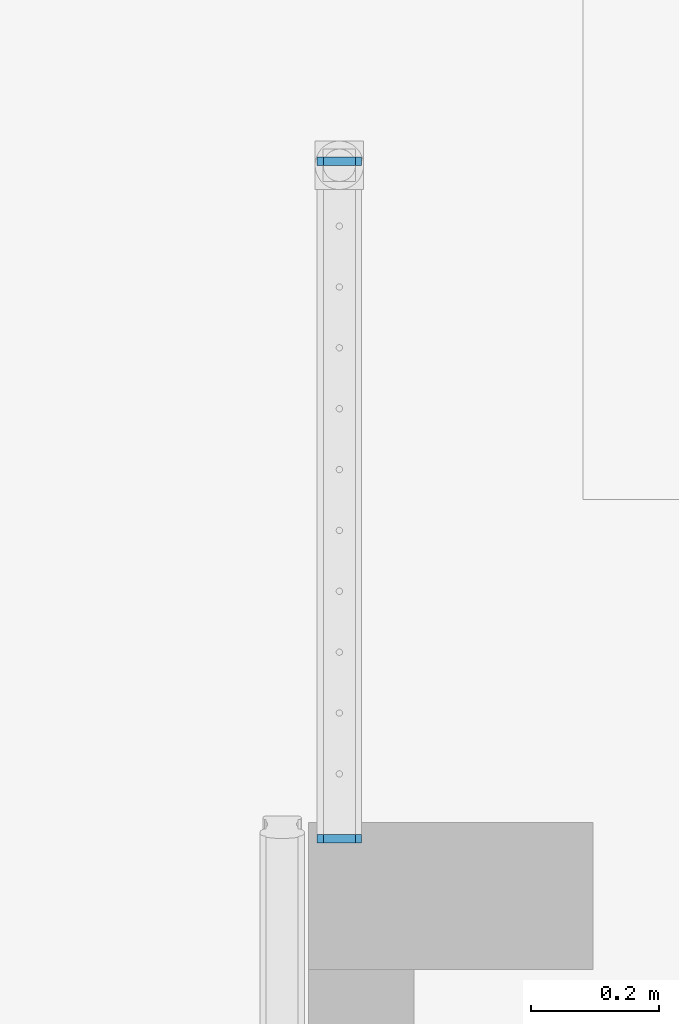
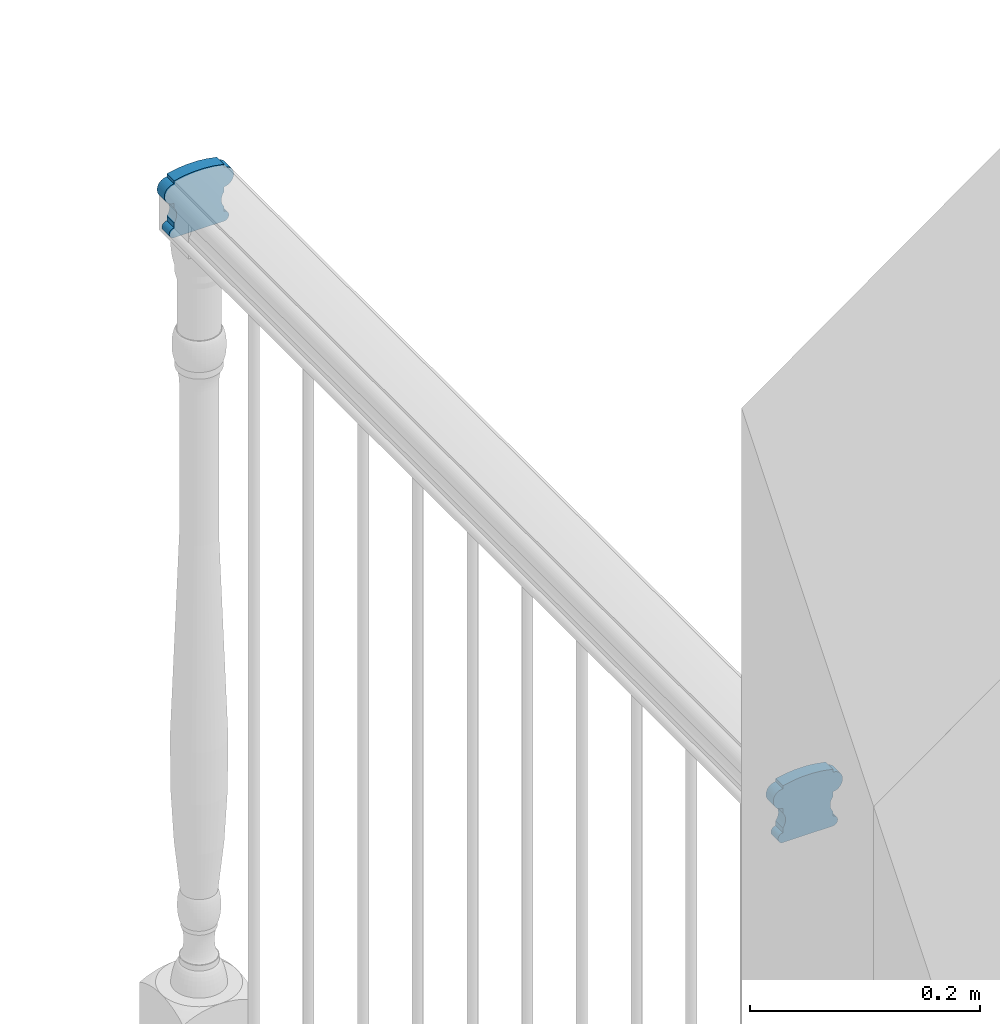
# One storey, part 28 of 77: 2 building element parts, 1 element without a shape of its own.
"""IFC2X3 building model written with IfcOpenShell, lengths in inches."""

from ifc_helpers import new_model, entity, si_unit, converted_unit, derived_unit, money_unit, direction, frame, origin_with_axes, place, context, subcontext, project, spatial, faceted_brep, material, type_object, element, aggregate, save


model = new_model("IFC2X3")

# Units and contexts
model_context = context("Model", 3, precision=0.000393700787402, world=origin_with_axes(), true_north=direction((0.0, 1.0)))
body_context = subcontext(model_context, "Body", "Model", "MODEL_VIEW")
ifc_project = project(units=[converted_unit("LENGTHUNIT", "INCH", entity("IfcPositiveLengthMeasure", 0.0254), si_unit("LENGTHUNIT", "METRE"), dimensions=[1, 0, 0, 0, 0, 0, 0]), converted_unit("AREAUNIT", "SQUARE_FOOT", entity("IfcPositiveLengthMeasure", 0.09290304), si_unit("AREAUNIT", "SQUARE_METRE"), dimensions=[2, 0, 0, 0, 0, 0, 0]), si_unit("PLANEANGLEUNIT", "RADIAN"), si_unit("SOLIDANGLEUNIT", "STERADIAN"), money_unit("USD"), converted_unit("TIMEUNIT", "Year", entity("IfcTimeMeasure", 31556926.0), si_unit("TIMEUNIT", "SECOND"), dimensions=[0, 0, 1, 0, 0, 0, 0]), si_unit("MASSUNIT", "GRAM", prefix="KILO"), si_unit("THERMODYNAMICTEMPERATUREUNIT", "DEGREE_CELSIUS"), si_unit("LUMINOUSINTENSITYUNIT", "LUMEN"), si_unit("ENERGYUNIT", "JOULE", prefix="MEGA"), derived_unit("THERMALCONDUCTANCEUNIT", [(si_unit("POWERUNIT", "WATT"), 1), (si_unit("LENGTHUNIT", "METRE"), -1), (si_unit("THERMODYNAMICTEMPERATUREUNIT", "KELVIN"), -1)]), derived_unit("SPECIFICHEATCAPACITYUNIT", [(si_unit("ENERGYUNIT", "JOULE"), 1), (si_unit("MASSUNIT", "GRAM", prefix="KILO"), -1), (si_unit("THERMODYNAMICTEMPERATUREUNIT", "KELVIN"), -1)]), derived_unit("MASSDENSITYUNIT", [(si_unit("MASSUNIT", "GRAM", prefix="KILO"), 1), (si_unit("VOLUMEUNIT", "CUBIC_METRE"), -1)])], contexts=[model_context])

# Site, building, storey
site_placement = place(None, origin_with_axes())
site = spatial("IfcSite", under=ifc_project, at=site_placement, Name="Site", CompositionType="ELEMENT")
building_placement = place(site_placement, origin_with_axes())
building = spatial("IfcBuilding", under=site, at=building_placement, Name="Building", CompositionType="ELEMENT")
storey_placement = place(building_placement, frame((0.0, 0.0, 127.952755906), z_axis=(0.0, 0.0, 1.0), x_axis=(1.0, 0.0, 0.0)))
storey = spatial("IfcBuildingStorey", under=building, at=storey_placement, Name="Second Floor", CompositionType="ELEMENT", Elevation=127.953)

# Railing, building element parts
railing_type = type_object("IfcRailingType", Name="Railing Type", PredefinedType="NOTDEFINED")
railing_placement = place(storey_placement, frame((726.989643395, 142.006727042, 0.0), z_axis=(0.0, 0.0, 1.0), x_axis=(-1.0, 0.0, 0.0)))
railing = element("IfcRailing", 1, at=railing_placement, inside=storey, type_object=railing_type, Name="RAILING - 001", PredefinedType="NOTDEFINED")
ifc_material = material(Name="Wood - Structural")
building_element_part_1_placement = place(railing_placement, origin_with_axes())
building_element_part_1 = element("IfcBuildingElementPart", 2, at=building_element_part_1_placement, material=ifc_material, Name="Wood - Structural", context=body_context, shape_type="Brep", body=[
    faceted_brep([(-2.95870018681, 0.0, 39.8773496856), (-2.95870018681, 0.0, 39.7546993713), (-2.95870018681, -0.5, 39.7546993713), (-2.95870018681, -0.5, 39.8773496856), (-2.90015196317, 0.0, 39.8915961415), (-2.53034410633, 0.0, 39.9608753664), (-2.15626030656, 0.0, 39.9956472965), (-1.78074756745, 0.0, 39.9956472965), (-1.40666376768, 0.0, 39.9608753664), (-1.03685591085, 0.0, 39.8915961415), (-0.97830768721, 0.0, 39.8773496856), (-0.97830768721, 0.0, 39.7546993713), (-0.944769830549, 0.0, 39.753143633), (-0.878713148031, 0.0, 39.7407686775), (-0.815682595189, 0.0, 39.7163947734), (-0.757593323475, 0.0, 39.6807625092), (-0.706210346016, 0.0, 39.6349545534), (-0.663094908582, 0.0, 39.5803627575), (-0.629557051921, 0.0, 39.5186458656), (-0.606615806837, 0.0, 39.4516791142), (-0.594968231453, 0.0, 39.3814972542), (-0.594968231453, 0.0, 39.3102327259), (-0.606615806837, 0.0, 39.2400508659), (-0.629557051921, 0.0, 39.1730841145), (-0.663094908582, 0.0, 39.1113672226), (-0.706210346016, 0.0, 39.0567754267), (-0.757593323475, 0.0, 39.0109674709), (-0.815682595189, 0.0, 38.9753352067), (-0.878713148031, 0.0, 38.9509613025), (-0.944769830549, 0.0, 38.9385863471), (-0.97830768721, 0.0, 38.9370306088), (-0.97830768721, 0.0, 38.7326134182), (-1.00088455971, 0.0, 38.7011676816), (-1.04067773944, 0.0, 38.6279396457), (-1.06789787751, 0.0, 38.5484825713), (-1.08171790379, 0.0, 38.4652107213), (-1.08171790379, 0.0, 38.3806542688), (-1.06789787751, 0.0, 38.2973824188), (-1.04067773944, 0.0, 38.2179253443), (-1.00088455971, 0.0, 38.1446973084), (-0.97830768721, 0.0, 38.1132515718), (-0.97830768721, 0.0, 37.9088343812), (-0.96153875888, 0.0, 37.9080565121), (-0.928510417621, 0.0, 37.9018690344), (-0.896995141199, 0.0, 37.8896820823), (-0.867950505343, 0.0, 37.8718659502), (-0.842259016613, 0.0, 37.8489619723), (-0.820701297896, 0.0, 37.8216660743), (-0.803932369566, 0.0, 37.7908076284), (-0.792461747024, 0.0, 37.7573242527), (-0.786637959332, 0.0, 37.7222333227), (-0.786637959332, 0.0, 37.6866010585), (-0.792461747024, 0.0, 37.6515101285), (-0.803932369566, 0.0, 37.6180267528), (-0.820701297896, 0.0, 37.5871683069), (-0.842259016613, 0.0, 37.5598724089), (-0.867950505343, 0.0, 37.536968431), (-0.896995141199, 0.0, 37.519152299), (-0.928510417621, 0.0, 37.5069653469), (-0.96153875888, 0.0, 37.5007778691), (-0.97830768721, 0.0, 37.5), (-2.95870018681, 0.0, 37.5), (-2.97546911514, 0.0, 37.5007778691), (-3.0084974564, 0.0, 37.5069653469), (-3.04001273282, 0.0, 37.519152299), (-3.06905736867, 0.0, 37.536968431), (-3.0947488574, 0.0, 37.5598724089), (-3.11630657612, 0.0, 37.5871683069), (-3.13307550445, 0.0, 37.6180267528), (-3.14454612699, 0.0, 37.6515101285), (-3.15036991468, 0.0, 37.6866010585), (-3.15036991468, 0.0, 37.7222333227), (-3.14454612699, 0.0, 37.7573242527), (-3.13307550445, 0.0, 37.7908076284), (-3.11630657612, 0.0, 37.8216660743), (-3.0947488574, 0.0, 37.8489619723), (-3.06905736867, 0.0, 37.8718659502), (-3.04001273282, 0.0, 37.8896820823), (-3.0084974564, 0.0, 37.9018690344), (-2.97546911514, 0.0, 37.9080565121), (-2.95870018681, 0.0, 37.9088343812), (-2.95870018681, 0.0, 38.1132515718), (-2.93612331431, 0.0, 38.1446973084), (-2.89633013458, 0.0, 38.2179253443), (-2.86910999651, 0.0, 38.2973824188), (-2.85528997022, 0.0, 38.3806542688), (-2.85528997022, 0.0, 38.4652107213), (-2.86910999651, 0.0, 38.5484825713), (-2.89633013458, 0.0, 38.6279396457), (-2.93612331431, 0.0, 38.7011676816), (-2.95870018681, 0.0, 38.7326134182), (-2.95870018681, 0.0, 38.9370306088), (-2.99223804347, 0.0, 38.9385863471), (-3.05829472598, 0.0, 38.9509613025), (-3.12132527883, 0.0, 38.9753352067), (-3.17941455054, 0.0, 39.0109674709), (-3.230797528, 0.0, 39.0567754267), (-3.27391296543, 0.0, 39.1113672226), (-3.30745082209, 0.0, 39.1730841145), (-3.33039206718, 0.0, 39.2400508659), (-3.34203964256, 0.0, 39.3102327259), (-3.34203964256, 0.0, 39.3814972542), (-3.33039206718, 0.0, 39.4516791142), (-3.30745082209, 0.0, 39.5186458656), (-3.27391296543, 0.0, 39.5803627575), (-3.230797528, 0.0, 39.6349545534), (-3.17941455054, 0.0, 39.6807625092), (-3.12132527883, 0.0, 39.7163947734), (-3.05829472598, 0.0, 39.7407686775), (-2.99223804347, 0.0, 39.753143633), (-2.99223804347, -0.5, 39.753143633), (-3.05829472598, -0.5, 39.7407686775), (-3.12132527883, -0.5, 39.7163947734), (-3.17941455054, -0.5, 39.6807625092), (-3.230797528, -0.5, 39.6349545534), (-3.27391296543, -0.5, 39.5803627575), (-3.30745082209, -0.5, 39.5186458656), (-3.33039206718, -0.5, 39.4516791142), (-3.34203964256, -0.5, 39.3814972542), (-3.34203964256, -0.5, 39.3102327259), (-3.33039206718, -0.5, 39.2400508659), (-3.30745082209, -0.5, 39.1730841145), (-3.27391296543, -0.5, 39.1113672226), (-3.230797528, -0.5, 39.0567754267), (-3.17941455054, -0.5, 39.0109674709), (-3.12132527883, -0.5, 38.9753352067), (-3.05829472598, -0.5, 38.9509613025), (-2.99223804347, -0.5, 38.9385863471), (-2.95870018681, -0.5, 38.9370306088), (-2.95870018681, -0.5, 38.7326134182), (-2.93612331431, -0.5, 38.7011676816), (-2.89633013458, -0.5, 38.6279396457), (-2.86910999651, -0.5, 38.5484825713), (-2.85528997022, -0.5, 38.4652107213), (-2.85528997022, -0.5, 38.3806542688), (-2.86910999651, -0.5, 38.2973824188), (-2.89633013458, -0.5, 38.2179253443), (-2.93612331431, -0.5, 38.1446973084), (-2.95870018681, -0.5, 38.1132515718), (-2.95870018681, -0.5, 37.9088343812), (-2.97546911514, -0.5, 37.9080565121), (-3.0084974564, -0.5, 37.9018690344), (-3.04001273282, -0.5, 37.8896820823), (-3.06905736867, -0.5, 37.8718659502), (-3.0947488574, -0.5, 37.8489619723), (-3.11630657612, -0.5, 37.8216660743), (-3.13307550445, -0.5, 37.7908076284), (-3.14454612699, -0.5, 37.7573242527), (-3.15036991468, -0.5, 37.7222333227), (-3.15036991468, -0.5, 37.6866010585), (-3.14454612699, -0.5, 37.6515101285), (-3.13307550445, -0.5, 37.6180267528), (-3.11630657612, -0.5, 37.5871683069), (-3.0947488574, -0.5, 37.5598724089), (-3.06905736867, -0.5, 37.536968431), (-3.04001273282, -0.5, 37.519152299), (-3.0084974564, -0.5, 37.5069653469), (-2.97546911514, -0.5, 37.5007778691), (-2.95870018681, -0.5, 37.5), (-0.97830768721, -0.5, 37.5), (-0.96153875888, -0.5, 37.5007778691), (-0.928510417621, -0.5, 37.5069653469), (-0.896995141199, -0.5, 37.519152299), (-0.867950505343, -0.5, 37.536968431), (-0.842259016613, -0.5, 37.5598724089), (-0.820701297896, -0.5, 37.5871683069), (-0.803932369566, -0.5, 37.6180267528), (-0.792461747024, -0.5, 37.6515101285), (-0.786637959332, -0.5, 37.6866010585), (-0.786637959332, -0.5, 37.7222333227), (-0.792461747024, -0.5, 37.7573242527), (-0.803932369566, -0.5, 37.7908076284), (-0.820701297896, -0.5, 37.8216660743), (-0.842259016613, -0.5, 37.8489619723), (-0.867950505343, -0.5, 37.8718659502), (-0.896995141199, -0.5, 37.8896820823), (-0.928510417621, -0.5, 37.9018690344), (-0.96153875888, -0.5, 37.9080565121), (-0.97830768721, -0.5, 37.9088343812), (-0.97830768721, -0.5, 38.1132515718), (-1.00088455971, -0.5, 38.1446973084), (-1.04067773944, -0.5, 38.2179253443), (-1.06789787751, -0.5, 38.2973824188), (-1.08171790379, -0.5, 38.3806542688), (-1.08171790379, -0.5, 38.4652107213), (-1.06789787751, -0.5, 38.5484825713), (-1.04067773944, -0.5, 38.6279396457), (-1.00088455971, -0.5, 38.7011676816), (-0.97830768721, -0.5, 38.7326134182), (-0.97830768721, -0.5, 38.9370306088), (-0.944769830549, -0.5, 38.9385863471), (-0.878713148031, -0.5, 38.9509613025), (-0.815682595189, -0.5, 38.9753352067), (-0.757593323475, -0.5, 39.0109674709), (-0.706210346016, -0.5, 39.0567754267), (-0.663094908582, -0.5, 39.1113672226), (-0.629557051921, -0.5, 39.1730841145), (-0.606615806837, -0.5, 39.2400508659), (-0.594968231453, -0.5, 39.3102327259), (-0.594968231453, -0.5, 39.3814972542), (-0.606615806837, -0.5, 39.4516791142), (-0.629557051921, -0.5, 39.5186458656), (-0.663094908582, -0.5, 39.5803627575), (-0.706210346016, -0.5, 39.6349545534), (-0.757593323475, -0.5, 39.6807625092), (-0.815682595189, -0.5, 39.7163947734), (-0.878713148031, -0.5, 39.7407686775), (-0.944769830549, -0.5, 39.753143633), (-0.97830768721, -0.5, 39.7546993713), (-0.97830768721, -0.5, 39.8773496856), (-1.03685591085, -0.5, 39.8915961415), (-1.40666376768, -0.5, 39.9608753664), (-1.78074756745, -0.5, 39.9956472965), (-2.15626030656, -0.5, 39.9956472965), (-2.53034410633, -0.5, 39.9608753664), (-2.90015196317, -0.5, 39.8915961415)], [[[0, 1, 2, 3]], [[0, 4, 5, 6, 7, 8, 9, 10, 11, 12, 13, 14, 15, 16, 17, 18, 19, 20, 21, 22, 23, 24, 25, 26, 27, 28, 29, 30, 31, 32, 33, 34, 35, 36, 37, 38, 39, 40, 41, 42, 43, 44, 45, 46, 47, 48, 49, 50, 51, 52, 53, 54, 55, 56, 57, 58, 59, 60, 61, 62, 63, 64, 65, 66, 67, 68, 69, 70, 71, 72, 73, 74, 75, 76, 77, 78, 79, 80, 81, 82, 83, 84, 85, 86, 87, 88, 89, 90, 91, 92, 93, 94, 95, 96, 97, 98, 99, 100, 101, 102, 103, 104, 105, 106, 107, 108, 109, 1]], [[1, 109, 110, 2]], [[3, 2, 110, 111, 112, 113, 114, 115, 116, 117, 118, 119, 120, 121, 122, 123, 124, 125, 126, 127, 128, 129, 130, 131, 132, 133, 134, 135, 136, 137, 138, 139, 140, 141, 142, 143, 144, 145, 146, 147, 148, 149, 150, 151, 152, 153, 154, 155, 156, 157, 158, 159, 160, 161, 162, 163, 164, 165, 166, 167, 168, 169, 170, 171, 172, 173, 174, 175, 176, 177, 178, 179, 180, 181, 182, 183, 184, 185, 186, 187, 188, 189, 190, 191, 192, 193, 194, 195, 196, 197, 198, 199, 200, 201, 202, 203, 204, 205, 206, 207, 208, 209, 210, 211, 212, 213, 214, 215]], [[4, 0, 3, 215]], [[5, 4, 215, 214]], [[6, 5, 214, 213]], [[7, 6, 213, 212]], [[8, 7, 212, 211]], [[9, 8, 211, 210]], [[10, 9, 210, 209]], [[11, 10, 209, 208]], [[12, 11, 208, 207]], [[13, 12, 207, 206]], [[14, 13, 206, 205]], [[15, 14, 205, 204]], [[16, 15, 204, 203]], [[17, 16, 203, 202]], [[18, 17, 202, 201]], [[19, 18, 201, 200]], [[20, 19, 200, 199]], [[21, 20, 199, 198]], [[22, 21, 198, 197]], [[23, 22, 197, 196]], [[24, 23, 196, 195]], [[25, 24, 195, 194]], [[26, 25, 194, 193]], [[27, 26, 193, 192]], [[28, 27, 192, 191]], [[29, 28, 191, 190]], [[30, 29, 190, 189]], [[31, 30, 189, 188]], [[32, 31, 188, 187]], [[33, 32, 187, 186]], [[34, 33, 186, 185]], [[35, 34, 185, 184]], [[36, 35, 184, 183]], [[37, 36, 183, 182]], [[38, 37, 182, 181]], [[39, 38, 181, 180]], [[40, 39, 180, 179]], [[41, 40, 179, 178]], [[42, 41, 178, 177]], [[43, 42, 177, 176]], [[44, 43, 176, 175]], [[45, 44, 175, 174]], [[46, 45, 174, 173]], [[47, 46, 173, 172]], [[48, 47, 172, 171]], [[49, 48, 171, 170]], [[50, 49, 170, 169]], [[51, 50, 169, 168]], [[52, 51, 168, 167]], [[53, 52, 167, 166]], [[54, 53, 166, 165]], [[55, 54, 165, 164]], [[56, 55, 164, 163]], [[57, 56, 163, 162]], [[58, 57, 162, 161]], [[59, 58, 161, 160]], [[60, 59, 160, 159]], [[61, 60, 159, 158]], [[62, 61, 158, 157]], [[63, 62, 157, 156]], [[64, 63, 156, 155]], [[65, 64, 155, 154]], [[66, 65, 154, 153]], [[67, 66, 153, 152]], [[68, 67, 152, 151]], [[69, 68, 151, 150]], [[70, 69, 150, 149]], [[71, 70, 149, 148]], [[72, 71, 148, 147]], [[73, 72, 147, 146]], [[74, 73, 146, 145]], [[75, 74, 145, 144]], [[76, 75, 144, 143]], [[77, 76, 143, 142]], [[78, 77, 142, 141]], [[79, 78, 141, 140]], [[80, 79, 140, 139]], [[81, 80, 139, 138]], [[82, 81, 138, 137]], [[83, 82, 137, 136]], [[84, 83, 136, 135]], [[85, 84, 135, 134]], [[86, 85, 134, 133]], [[87, 86, 133, 132]], [[88, 87, 132, 131]], [[89, 88, 131, 130]], [[90, 89, 130, 129]], [[91, 90, 129, 128]], [[92, 91, 128, 127]], [[93, 92, 127, 126]], [[94, 93, 126, 125]], [[95, 94, 125, 124]], [[96, 95, 124, 123]], [[97, 96, 123, 122]], [[98, 97, 122, 121]], [[99, 98, 121, 120]], [[100, 99, 120, 119]], [[101, 100, 119, 118]], [[102, 101, 118, 117]], [[103, 102, 117, 116]], [[104, 103, 116, 115]], [[105, 104, 115, 114]], [[106, 105, 114, 113]], [[107, 106, 113, 112]], [[108, 107, 112, 111]], [[109, 108, 111, 110]]]),
])
building_element_part_2_placement = place(railing_placement, origin_with_axes())
building_element_part_2 = element("IfcBuildingElementPart", 3, at=building_element_part_2_placement, material=ifc_material, Name="Wood - Structural", context=body_context, shape_type="Brep", body=[
    faceted_brep([(-0.978307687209, 41.2648747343, 39.8773496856), (-0.978307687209, 41.2648747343, 39.7546993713), (-0.978307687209, 41.7648747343, 39.7546993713), (-0.978307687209, 41.7648747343, 39.8773496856), (-1.03685591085, 41.2648747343, 39.8915961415), (-1.40666376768, 41.2648747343, 39.9608753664), (-1.78074756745, 41.2648747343, 39.9956472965), (-2.15626030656, 41.2648747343, 39.9956472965), (-2.53034410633, 41.2648747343, 39.9608753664), (-2.90015196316, 41.2648747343, 39.8915961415), (-2.9587001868, 41.2648747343, 39.8773496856), (-2.9587001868, 41.2648747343, 39.7546993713), (-2.99223804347, 41.2648747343, 39.753143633), (-3.05829472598, 41.2648747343, 39.7407686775), (-3.12132527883, 41.2648747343, 39.7163947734), (-3.17941455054, 41.2648747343, 39.6807625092), (-3.230797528, 41.2648747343, 39.6349545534), (-3.27391296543, 41.2648747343, 39.5803627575), (-3.30745082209, 41.2648747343, 39.5186458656), (-3.33039206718, 41.2648747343, 39.4516791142), (-3.34203964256, 41.2648747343, 39.3814972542), (-3.34203964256, 41.2648747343, 39.3102327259), (-3.33039206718, 41.2648747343, 39.2400508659), (-3.30745082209, 41.2648747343, 39.1730841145), (-3.27391296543, 41.2648747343, 39.1113672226), (-3.230797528, 41.2648747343, 39.0567754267), (-3.17941455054, 41.2648747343, 39.0109674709), (-3.12132527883, 41.2648747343, 38.9753352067), (-3.05829472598, 41.2648747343, 38.9509613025), (-2.99223804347, 41.2648747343, 38.9385863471), (-2.9587001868, 41.2648747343, 38.9370306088), (-2.9587001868, 41.2648747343, 38.7326134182), (-2.93612331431, 41.2648747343, 38.7011676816), (-2.89633013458, 41.2648747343, 38.6279396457), (-2.86910999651, 41.2648747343, 38.5484825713), (-2.85528997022, 41.2648747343, 38.4652107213), (-2.85528997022, 41.2648747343, 38.3806542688), (-2.86910999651, 41.2648747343, 38.2973824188), (-2.89633013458, 41.2648747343, 38.2179253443), (-2.93612331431, 41.2648747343, 38.1446973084), (-2.9587001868, 41.2648747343, 38.1132515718), (-2.9587001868, 41.2648747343, 37.9088343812), (-2.97546911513, 41.2648747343, 37.9080565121), (-3.00849745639, 41.2648747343, 37.9018690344), (-3.04001273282, 41.2648747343, 37.8896820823), (-3.06905736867, 41.2648747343, 37.8718659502), (-3.0947488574, 41.2648747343, 37.8489619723), (-3.11630657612, 41.2648747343, 37.8216660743), (-3.13307550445, 41.2648747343, 37.7908076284), (-3.14454612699, 41.2648747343, 37.7573242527), (-3.15036991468, 41.2648747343, 37.7222333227), (-3.15036991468, 41.2648747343, 37.6866010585), (-3.14454612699, 41.2648747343, 37.6515101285), (-3.13307550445, 41.2648747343, 37.6180267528), (-3.11630657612, 41.2648747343, 37.5871683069), (-3.0947488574, 41.2648747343, 37.5598724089), (-3.06905736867, 41.2648747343, 37.536968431), (-3.04001273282, 41.2648747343, 37.519152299), (-3.00849745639, 41.2648747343, 37.5069653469), (-2.97546911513, 41.2648747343, 37.5007778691), (-2.9587001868, 41.2648747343, 37.5), (-0.978307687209, 41.2648747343, 37.5), (-0.961538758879, 41.2648747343, 37.5007778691), (-0.92851041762, 41.2648747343, 37.5069653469), (-0.896995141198, 41.2648747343, 37.519152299), (-0.867950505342, 41.2648747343, 37.536968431), (-0.842259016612, 41.2648747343, 37.5598724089), (-0.820701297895, 41.2648747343, 37.5871683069), (-0.803932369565, 41.2648747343, 37.6180267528), (-0.792461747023, 41.2648747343, 37.6515101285), (-0.786637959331, 41.2648747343, 37.6866010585), (-0.786637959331, 41.2648747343, 37.7222333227), (-0.792461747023, 41.2648747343, 37.7573242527), (-0.803932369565, 41.2648747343, 37.7908076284), (-0.820701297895, 41.2648747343, 37.8216660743), (-0.842259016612, 41.2648747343, 37.8489619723), (-0.867950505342, 41.2648747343, 37.8718659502), (-0.896995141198, 41.2648747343, 37.8896820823), (-0.92851041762, 41.2648747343, 37.9018690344), (-0.961538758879, 41.2648747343, 37.9080565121), (-0.978307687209, 41.2648747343, 37.9088343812), (-0.978307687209, 41.2648747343, 38.1132515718), (-1.00088455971, 41.2648747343, 38.1446973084), (-1.04067773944, 41.2648747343, 38.2179253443), (-1.06789787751, 41.2648747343, 38.2973824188), (-1.08171790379, 41.2648747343, 38.3806542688), (-1.08171790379, 41.2648747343, 38.4652107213), (-1.06789787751, 41.2648747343, 38.5484825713), (-1.04067773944, 41.2648747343, 38.6279396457), (-1.00088455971, 41.2648747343, 38.7011676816), (-0.978307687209, 41.2648747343, 38.7326134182), (-0.978307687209, 41.2648747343, 38.9370306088), (-0.944769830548, 41.2648747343, 38.9385863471), (-0.87871314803, 41.2648747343, 38.9509613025), (-0.815682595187, 41.2648747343, 38.9753352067), (-0.757593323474, 41.2648747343, 39.0109674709), (-0.706210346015, 41.2648747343, 39.0567754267), (-0.663094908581, 41.2648747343, 39.1113672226), (-0.62955705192, 41.2648747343, 39.1730841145), (-0.606615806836, 41.2648747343, 39.2400508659), (-0.594968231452, 41.2648747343, 39.3102327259), (-0.594968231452, 41.2648747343, 39.3814972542), (-0.606615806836, 41.2648747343, 39.4516791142), (-0.62955705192, 41.2648747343, 39.5186458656), (-0.663094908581, 41.2648747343, 39.5803627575), (-0.706210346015, 41.2648747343, 39.6349545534), (-0.757593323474, 41.2648747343, 39.6807625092), (-0.815682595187, 41.2648747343, 39.7163947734), (-0.87871314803, 41.2648747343, 39.7407686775), (-0.944769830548, 41.2648747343, 39.753143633), (-0.944769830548, 41.7648747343, 39.753143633), (-0.87871314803, 41.7648747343, 39.7407686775), (-0.815682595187, 41.7648747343, 39.7163947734), (-0.757593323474, 41.7648747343, 39.6807625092), (-0.706210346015, 41.7648747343, 39.6349545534), (-0.663094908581, 41.7648747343, 39.5803627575), (-0.62955705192, 41.7648747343, 39.5186458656), (-0.606615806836, 41.7648747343, 39.4516791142), (-0.594968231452, 41.7648747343, 39.3814972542), (-0.594968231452, 41.7648747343, 39.3102327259), (-0.606615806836, 41.7648747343, 39.2400508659), (-0.62955705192, 41.7648747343, 39.1730841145), (-0.663094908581, 41.7648747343, 39.1113672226), (-0.706210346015, 41.7648747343, 39.0567754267), (-0.757593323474, 41.7648747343, 39.0109674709), (-0.815682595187, 41.7648747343, 38.9753352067), (-0.87871314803, 41.7648747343, 38.9509613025), (-0.944769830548, 41.7648747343, 38.9385863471), (-0.978307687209, 41.7648747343, 38.9370306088), (-0.978307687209, 41.7648747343, 38.7326134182), (-1.00088455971, 41.7648747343, 38.7011676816), (-1.04067773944, 41.7648747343, 38.6279396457), (-1.06789787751, 41.7648747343, 38.5484825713), (-1.08171790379, 41.7648747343, 38.4652107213), (-1.08171790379, 41.7648747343, 38.3806542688), (-1.06789787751, 41.7648747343, 38.2973824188), (-1.04067773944, 41.7648747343, 38.2179253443), (-1.00088455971, 41.7648747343, 38.1446973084), (-0.978307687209, 41.7648747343, 38.1132515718), (-0.978307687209, 41.7648747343, 37.9088343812), (-0.961538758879, 41.7648747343, 37.9080565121), (-0.92851041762, 41.7648747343, 37.9018690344), (-0.896995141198, 41.7648747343, 37.8896820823), (-0.867950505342, 41.7648747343, 37.8718659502), (-0.842259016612, 41.7648747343, 37.8489619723), (-0.820701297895, 41.7648747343, 37.8216660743), (-0.803932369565, 41.7648747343, 37.7908076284), (-0.792461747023, 41.7648747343, 37.7573242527), (-0.786637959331, 41.7648747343, 37.7222333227), (-0.786637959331, 41.7648747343, 37.6866010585), (-0.792461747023, 41.7648747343, 37.6515101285), (-0.803932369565, 41.7648747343, 37.6180267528), (-0.820701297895, 41.7648747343, 37.5871683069), (-0.842259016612, 41.7648747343, 37.5598724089), (-0.867950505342, 41.7648747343, 37.536968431), (-0.896995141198, 41.7648747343, 37.519152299), (-0.92851041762, 41.7648747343, 37.5069653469), (-0.961538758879, 41.7648747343, 37.5007778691), (-0.978307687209, 41.7648747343, 37.5), (-2.9587001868, 41.7648747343, 37.5), (-2.97546911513, 41.7648747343, 37.5007778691), (-3.00849745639, 41.7648747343, 37.5069653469), (-3.04001273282, 41.7648747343, 37.519152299), (-3.06905736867, 41.7648747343, 37.536968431), (-3.0947488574, 41.7648747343, 37.5598724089), (-3.11630657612, 41.7648747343, 37.5871683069), (-3.13307550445, 41.7648747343, 37.6180267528), (-3.14454612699, 41.7648747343, 37.6515101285), (-3.15036991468, 41.7648747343, 37.6866010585), (-3.15036991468, 41.7648747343, 37.7222333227), (-3.14454612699, 41.7648747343, 37.7573242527), (-3.13307550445, 41.7648747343, 37.7908076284), (-3.11630657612, 41.7648747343, 37.8216660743), (-3.0947488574, 41.7648747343, 37.8489619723), (-3.06905736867, 41.7648747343, 37.8718659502), (-3.04001273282, 41.7648747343, 37.8896820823), (-3.00849745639, 41.7648747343, 37.9018690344), (-2.97546911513, 41.7648747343, 37.9080565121), (-2.9587001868, 41.7648747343, 37.9088343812), (-2.9587001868, 41.7648747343, 38.1132515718), (-2.93612331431, 41.7648747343, 38.1446973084), (-2.89633013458, 41.7648747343, 38.2179253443), (-2.86910999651, 41.7648747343, 38.2973824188), (-2.85528997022, 41.7648747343, 38.3806542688), (-2.85528997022, 41.7648747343, 38.4652107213), (-2.86910999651, 41.7648747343, 38.5484825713), (-2.89633013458, 41.7648747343, 38.6279396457), (-2.93612331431, 41.7648747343, 38.7011676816), (-2.9587001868, 41.7648747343, 38.7326134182), (-2.9587001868, 41.7648747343, 38.9370306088), (-2.99223804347, 41.7648747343, 38.9385863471), (-3.05829472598, 41.7648747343, 38.9509613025), (-3.12132527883, 41.7648747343, 38.9753352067), (-3.17941455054, 41.7648747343, 39.0109674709), (-3.230797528, 41.7648747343, 39.0567754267), (-3.27391296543, 41.7648747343, 39.1113672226), (-3.30745082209, 41.7648747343, 39.1730841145), (-3.33039206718, 41.7648747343, 39.2400508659), (-3.34203964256, 41.7648747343, 39.3102327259), (-3.34203964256, 41.7648747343, 39.3814972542), (-3.33039206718, 41.7648747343, 39.4516791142), (-3.30745082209, 41.7648747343, 39.5186458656), (-3.27391296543, 41.7648747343, 39.5803627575), (-3.230797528, 41.7648747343, 39.6349545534), (-3.17941455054, 41.7648747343, 39.6807625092), (-3.12132527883, 41.7648747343, 39.7163947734), (-3.05829472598, 41.7648747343, 39.7407686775), (-2.99223804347, 41.7648747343, 39.753143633), (-2.9587001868, 41.7648747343, 39.7546993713), (-2.9587001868, 41.7648747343, 39.8773496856), (-2.90015196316, 41.7648747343, 39.8915961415), (-2.53034410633, 41.7648747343, 39.9608753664), (-2.15626030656, 41.7648747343, 39.9956472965), (-1.78074756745, 41.7648747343, 39.9956472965), (-1.40666376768, 41.7648747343, 39.9608753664), (-1.03685591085, 41.7648747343, 39.8915961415)], [[[0, 1, 2, 3]], [[0, 4, 5, 6, 7, 8, 9, 10, 11, 12, 13, 14, 15, 16, 17, 18, 19, 20, 21, 22, 23, 24, 25, 26, 27, 28, 29, 30, 31, 32, 33, 34, 35, 36, 37, 38, 39, 40, 41, 42, 43, 44, 45, 46, 47, 48, 49, 50, 51, 52, 53, 54, 55, 56, 57, 58, 59, 60, 61, 62, 63, 64, 65, 66, 67, 68, 69, 70, 71, 72, 73, 74, 75, 76, 77, 78, 79, 80, 81, 82, 83, 84, 85, 86, 87, 88, 89, 90, 91, 92, 93, 94, 95, 96, 97, 98, 99, 100, 101, 102, 103, 104, 105, 106, 107, 108, 109, 1]], [[1, 109, 110, 2]], [[3, 2, 110, 111, 112, 113, 114, 115, 116, 117, 118, 119, 120, 121, 122, 123, 124, 125, 126, 127, 128, 129, 130, 131, 132, 133, 134, 135, 136, 137, 138, 139, 140, 141, 142, 143, 144, 145, 146, 147, 148, 149, 150, 151, 152, 153, 154, 155, 156, 157, 158, 159, 160, 161, 162, 163, 164, 165, 166, 167, 168, 169, 170, 171, 172, 173, 174, 175, 176, 177, 178, 179, 180, 181, 182, 183, 184, 185, 186, 187, 188, 189, 190, 191, 192, 193, 194, 195, 196, 197, 198, 199, 200, 201, 202, 203, 204, 205, 206, 207, 208, 209, 210, 211, 212, 213, 214, 215]], [[4, 0, 3, 215]], [[5, 4, 215, 214]], [[6, 5, 214, 213]], [[7, 6, 213, 212]], [[8, 7, 212, 211]], [[9, 8, 211, 210]], [[10, 9, 210, 209]], [[11, 10, 209, 208]], [[12, 11, 208, 207]], [[13, 12, 207, 206]], [[14, 13, 206, 205]], [[15, 14, 205, 204]], [[16, 15, 204, 203]], [[17, 16, 203, 202]], [[18, 17, 202, 201]], [[19, 18, 201, 200]], [[20, 19, 200, 199]], [[21, 20, 199, 198]], [[22, 21, 198, 197]], [[23, 22, 197, 196]], [[24, 23, 196, 195]], [[25, 24, 195, 194]], [[26, 25, 194, 193]], [[27, 26, 193, 192]], [[28, 27, 192, 191]], [[29, 28, 191, 190]], [[30, 29, 190, 189]], [[31, 30, 189, 188]], [[32, 31, 188, 187]], [[33, 32, 187, 186]], [[34, 33, 186, 185]], [[35, 34, 185, 184]], [[36, 35, 184, 183]], [[37, 36, 183, 182]], [[38, 37, 182, 181]], [[39, 38, 181, 180]], [[40, 39, 180, 179]], [[41, 40, 179, 178]], [[42, 41, 178, 177]], [[43, 42, 177, 176]], [[44, 43, 176, 175]], [[45, 44, 175, 174]], [[46, 45, 174, 173]], [[47, 46, 173, 172]], [[48, 47, 172, 171]], [[49, 48, 171, 170]], [[50, 49, 170, 169]], [[51, 50, 169, 168]], [[52, 51, 168, 167]], [[53, 52, 167, 166]], [[54, 53, 166, 165]], [[55, 54, 165, 164]], [[56, 55, 164, 163]], [[57, 56, 163, 162]], [[58, 57, 162, 161]], [[59, 58, 161, 160]], [[60, 59, 160, 159]], [[61, 60, 159, 158]], [[62, 61, 158, 157]], [[63, 62, 157, 156]], [[64, 63, 156, 155]], [[65, 64, 155, 154]], [[66, 65, 154, 153]], [[67, 66, 153, 152]], [[68, 67, 152, 151]], [[69, 68, 151, 150]], [[70, 69, 150, 149]], [[71, 70, 149, 148]], [[72, 71, 148, 147]], [[73, 72, 147, 146]], [[74, 73, 146, 145]], [[75, 74, 145, 144]], [[76, 75, 144, 143]], [[77, 76, 143, 142]], [[78, 77, 142, 141]], [[79, 78, 141, 140]], [[80, 79, 140, 139]], [[81, 80, 139, 138]], [[82, 81, 138, 137]], [[83, 82, 137, 136]], [[84, 83, 136, 135]], [[85, 84, 135, 134]], [[86, 85, 134, 133]], [[87, 86, 133, 132]], [[88, 87, 132, 131]], [[89, 88, 131, 130]], [[90, 89, 130, 129]], [[91, 90, 129, 128]], [[92, 91, 128, 127]], [[93, 92, 127, 126]], [[94, 93, 126, 125]], [[95, 94, 125, 124]], [[96, 95, 124, 123]], [[97, 96, 123, 122]], [[98, 97, 122, 121]], [[99, 98, 121, 120]], [[100, 99, 120, 119]], [[101, 100, 119, 118]], [[102, 101, 118, 117]], [[103, 102, 117, 116]], [[104, 103, 116, 115]], [[105, 104, 115, 114]], [[106, 105, 114, 113]], [[107, 106, 113, 112]], [[108, 107, 112, 111]], [[109, 108, 111, 110]]]),
])
aggregate(railing, [building_element_part_1, building_element_part_2])

save(model, "model.ifc")
